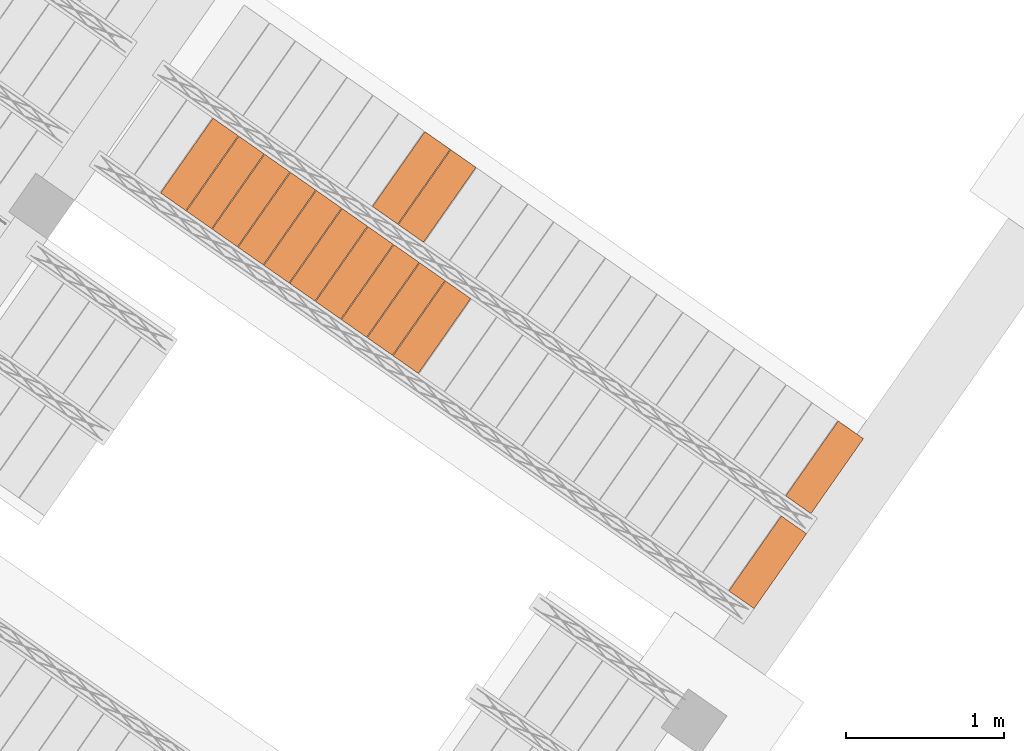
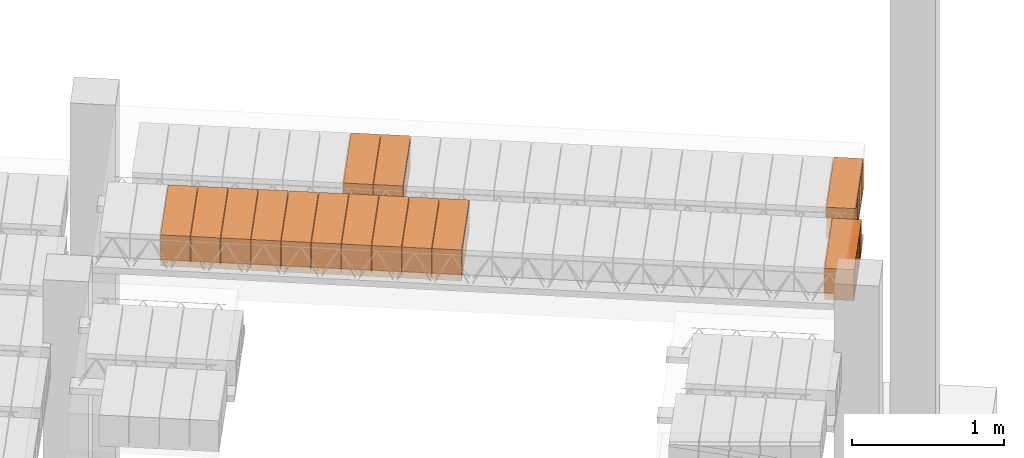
# One storey, part 77 of 80: 14 proxies.
"""IFC2X3 building model written with IfcOpenShell, lengths in metres."""

from ifc_helpers import new_model, entity, si_unit, converted_unit, derived_unit, direction, frame, origin, place, context, subcontext, project, spatial, polyline, outline, extrude, type_object, element, save


model = new_model("IFC2X3")

# Units and contexts
model_context = context("Model", 3, precision=1e-05, world=origin(), true_north=direction((6.123031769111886e-17, 1.0)))
body_context = subcontext(model_context, "Body", "Model", "MODEL_VIEW")
ifc_project = project(units=[si_unit("LENGTHUNIT", "METRE"), si_unit("AREAUNIT", "SQUARE_METRE"), si_unit("VOLUMEUNIT", "CUBIC_METRE"), converted_unit("PLANEANGLEUNIT", "DEGREE", entity("IfcPlaneAngleMeasure", 0.017453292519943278), si_unit("PLANEANGLEUNIT", "RADIAN"), dimensions=[0, 0, 0, 0, 0, 0, 0]), si_unit("MASSUNIT", "GRAM", prefix="KILO"), derived_unit("MASSDENSITYUNIT", [(si_unit("MASSUNIT", "GRAM", prefix="KILO"), 1), (si_unit("LENGTHUNIT", "METRE"), -3)]), derived_unit("IONCONCENTRATIONUNIT", [(si_unit("MASSUNIT", "GRAM", prefix="KILO"), 1), (si_unit("LENGTHUNIT", "METRE"), -3)]), derived_unit("MOMENTOFINERTIAUNIT", [(si_unit("LENGTHUNIT", "METRE"), 4)]), si_unit("TIMEUNIT", "SECOND"), si_unit("FREQUENCYUNIT", "HERTZ"), si_unit("THERMODYNAMICTEMPERATUREUNIT", "DEGREE_CELSIUS"), derived_unit("THERMALTRANSMITTANCEUNIT", [(si_unit("MASSUNIT", "GRAM", prefix="KILO"), 1), (si_unit("THERMODYNAMICTEMPERATUREUNIT", "KELVIN"), -1), (si_unit("TIMEUNIT", "SECOND"), -3)]), derived_unit("THERMALCONDUCTANCEUNIT", [(si_unit("MASSUNIT", "GRAM", prefix="KILO"), 1), (si_unit("THERMODYNAMICTEMPERATUREUNIT", "KELVIN"), -1), (si_unit("TIMEUNIT", "SECOND"), -3), (si_unit("LENGTHUNIT", "METRE"), 1)]), derived_unit("VOLUMETRICFLOWRATEUNIT", [(si_unit("LENGTHUNIT", "METRE", prefix="DECI"), 3), (si_unit("TIMEUNIT", "SECOND"), -1)]), derived_unit("MASSFLOWRATEUNIT", [(si_unit("MASSUNIT", "GRAM", prefix="KILO"), 1), (si_unit("TIMEUNIT", "SECOND"), -1)]), derived_unit("ROTATIONALFREQUENCYUNIT", [(si_unit("TIMEUNIT", "SECOND"), -1)]), si_unit("ELECTRICCURRENTUNIT", "AMPERE"), si_unit("ELECTRICVOLTAGEUNIT", "VOLT"), si_unit("POWERUNIT", "WATT"), si_unit("FORCEUNIT", "NEWTON", prefix="KILO"), si_unit("ILLUMINANCEUNIT", "LUX"), si_unit("LUMINOUSFLUXUNIT", "LUMEN"), si_unit("LUMINOUSINTENSITYUNIT", "CANDELA"), si_unit("ENERGYUNIT", "JOULE"), derived_unit("USERDEFINED", [(si_unit("MASSUNIT", "GRAM", prefix="KILO"), -1), (si_unit("LENGTHUNIT", "METRE"), -2), (si_unit("TIMEUNIT", "SECOND"), 3), (si_unit("LUMINOUSFLUXUNIT", "LUMEN"), 1)]), derived_unit("USERDEFINED", [(si_unit("MASSUNIT", "GRAM", prefix="KILO"), 1), (si_unit("TIMEUNIT", "SECOND"), -3), (si_unit("LENGTHUNIT", "METRE"), 3), (si_unit("ELECTRICCURRENTUNIT", "AMPERE"), -2)]), derived_unit("SOUNDPOWERUNIT", [(si_unit("MASSUNIT", "GRAM", prefix="KILO"), 1), (si_unit("TIMEUNIT", "SECOND"), -3), (si_unit("LENGTHUNIT", "METRE"), 2)]), derived_unit("SOUNDPRESSUREUNIT", [(si_unit("MASSUNIT", "GRAM", prefix="KILO"), 1), (si_unit("LENGTHUNIT", "METRE"), -1), (si_unit("TIMEUNIT", "SECOND"), -2)]), derived_unit("LINEARVELOCITYUNIT", [(si_unit("LENGTHUNIT", "METRE"), 1), (si_unit("TIMEUNIT", "SECOND"), -1)]), si_unit("PRESSUREUNIT", "PASCAL"), derived_unit("USERDEFINED", [(si_unit("MASSUNIT", "GRAM", prefix="KILO"), 1), (si_unit("LENGTHUNIT", "METRE"), -2), (si_unit("TIMEUNIT", "SECOND"), -2)]), derived_unit("LINEARFORCEUNIT", [(si_unit("MASSUNIT", "GRAM", prefix="KILO"), 1), (si_unit("TIMEUNIT", "SECOND"), -2)]), derived_unit("PLANARFORCEUNIT", [(si_unit("MASSUNIT", "GRAM", prefix="KILO"), 1), (si_unit("LENGTHUNIT", "METRE"), -1), (si_unit("TIMEUNIT", "SECOND"), -2)]), derived_unit("SPECIFICHEATCAPACITYUNIT", [(si_unit("THERMODYNAMICTEMPERATUREUNIT", "KELVIN"), -1), (si_unit("LENGTHUNIT", "METRE"), 2), (si_unit("TIMEUNIT", "SECOND"), -2)]), derived_unit("HEATFLUXDENSITYUNIT", [(si_unit("MASSUNIT", "GRAM", prefix="KILO"), 1), (si_unit("TIMEUNIT", "SECOND"), -3)]), derived_unit("HEATINGVALUEUNIT", [(si_unit("LENGTHUNIT", "METRE"), 2), (si_unit("TIMEUNIT", "SECOND"), -2)]), derived_unit("VAPORPERMEABILITYUNIT", [(si_unit("LENGTHUNIT", "METRE"), -1), (si_unit("TIMEUNIT", "SECOND"), 1)]), derived_unit("DYNAMICVISCOSITYUNIT", [(si_unit("MASSUNIT", "GRAM", prefix="KILO"), 1), (si_unit("TIMEUNIT", "SECOND"), -1), (si_unit("LENGTHUNIT", "METRE"), -1)]), derived_unit("THERMALEXPANSIONCOEFFICIENTUNIT", [(si_unit("THERMODYNAMICTEMPERATUREUNIT", "KELVIN"), -1)]), derived_unit("MODULUSOFELASTICITYUNIT", [(si_unit("MASSUNIT", "GRAM", prefix="KILO"), 1), (si_unit("LENGTHUNIT", "METRE"), -1), (si_unit("TIMEUNIT", "SECOND"), -2)]), derived_unit("ISOTHERMALMOISTURECAPACITYUNIT", [(si_unit("MASSUNIT", "GRAM", prefix="KILO"), -1), (si_unit("LENGTHUNIT", "METRE"), 3)]), derived_unit("MOISTUREDIFFUSIVITYUNIT", [(si_unit("TIMEUNIT", "SECOND"), -1), (si_unit("LENGTHUNIT", "METRE"), 2)]), derived_unit("MASSPERLENGTHUNIT", [(si_unit("MASSUNIT", "GRAM", prefix="KILO"), 1), (si_unit("LENGTHUNIT", "METRE"), -1)]), derived_unit("THERMALRESISTANCEUNIT", [(si_unit("MASSUNIT", "GRAM", prefix="KILO"), -1), (si_unit("TIMEUNIT", "SECOND"), 3), (si_unit("THERMODYNAMICTEMPERATUREUNIT", "KELVIN"), 1)]), derived_unit("ACCELERATIONUNIT", [(si_unit("LENGTHUNIT", "METRE"), 1), (si_unit("TIMEUNIT", "SECOND"), -2)]), derived_unit("ANGULARVELOCITYUNIT", [(si_unit("TIMEUNIT", "SECOND"), -1), (si_unit("PLANEANGLEUNIT", "RADIAN"), 1)]), derived_unit("LINEARSTIFFNESSUNIT", [(si_unit("MASSUNIT", "GRAM", prefix="KILO"), 1), (si_unit("TIMEUNIT", "SECOND"), -2)]), derived_unit("WARPINGCONSTANTUNIT", [(si_unit("LENGTHUNIT", "METRE"), 6)]), derived_unit("LINEARMOMENTUNIT", [(si_unit("MASSUNIT", "GRAM", prefix="KILO"), 1), (si_unit("LENGTHUNIT", "METRE"), 1), (si_unit("TIMEUNIT", "SECOND"), -2)]), derived_unit("TORQUEUNIT", [(si_unit("MASSUNIT", "GRAM", prefix="KILO"), 1), (si_unit("LENGTHUNIT", "METRE"), 2), (si_unit("TIMEUNIT", "SECOND"), -2)])], contexts=[model_context])

# Site, building, storey
site_placement = place(None, origin())
site = spatial("IfcSite", under=ifc_project, at=site_placement, Name="Default", CompositionType="ELEMENT")
building_placement = place(site_placement, origin())
building = spatial("IfcBuilding", under=site, at=building_placement, CompositionType="ELEMENT")
storey_placement = place(building_placement, frame((0.0, 0.0, 95.94)))
storey = spatial("IfcBuildingStorey", under=building, at=storey_placement, Name="PB", CompositionType="ELEMENT", Elevation=95.94)

# Proxies
building_element_proxy_type_1 = type_object("IfcBuildingElementProxyType", Name="Bovedilla 1-1 (Paño 15)", PredefinedType="USERDEFINED")
proxy_1_placement = place(storey_placement, origin())
element("IfcBuildingElementProxy", 1, at=proxy_1_placement, inside=storey, type_object=building_element_proxy_type_1, Name="Bovedilla 1-1 (Paño 15)", ObjectType="FORM", context=body_context, shape_type="SweptSolid", body=[
    extrude(outline(polyline([(-0.28999999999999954, -0.12500000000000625), (0.28999999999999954, -0.12500000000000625), (0.28999999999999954, 0.12500000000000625), (-0.28999999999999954, 0.12500000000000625), (-0.28999999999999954, -0.12500000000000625)]), holes=[polyline([(0.26999999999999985, -0.10499999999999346), (0.15500000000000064, -0.10499999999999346), (0.15500000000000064, 0.10499999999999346), (0.26999999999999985, 0.10499999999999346), (0.26999999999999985, 0.042499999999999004), (0.26999999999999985, -0.10499999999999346)]), polyline([(0.009999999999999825, -0.10499999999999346), (0.009999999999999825, 0.10499999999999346), (0.13499999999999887, 0.10499999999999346), (0.13499999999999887, -0.10499999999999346), (0.009999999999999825, -0.10499999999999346)]), polyline([(-0.13499999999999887, 0.10499999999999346), (-0.009999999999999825, 0.10499999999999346), (-0.009999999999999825, -0.10499999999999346), (-0.13499999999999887, -0.10499999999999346), (-0.13499999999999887, 0.10499999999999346)]), polyline([(-0.26999999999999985, -0.10499999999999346), (-0.26999999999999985, 0.042499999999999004), (-0.26999999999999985, 0.10499999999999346), (-0.15500000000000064, 0.10499999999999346), (-0.15500000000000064, -0.10499999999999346), (-0.26999999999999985, -0.10499999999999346)])]), frame((10.355158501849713, 5.323562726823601, 3.4050000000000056), z_axis=(0.8191520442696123, -0.5735764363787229, 0.0), x_axis=(-0.5735764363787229, -0.8191520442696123, 0.0)), (0.0, 0.0, 1.0), 0.19499999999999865),
])
building_element_proxy_type_2 = type_object("IfcBuildingElementProxyType", Name="Bovedilla 1-14 (Paño 15)", PredefinedType="USERDEFINED")
proxy_2_placement = place(storey_placement, origin())
element("IfcBuildingElementProxy", 2, at=proxy_2_placement, inside=storey, type_object=building_element_proxy_type_2, Name="Bovedilla 1-14 (Paño 15)", ObjectType="FORM", context=body_context, shape_type="SweptSolid", body=[
    extrude(outline(polyline([(-0.28999999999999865, -0.12500000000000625), (0.2900000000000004, -0.12500000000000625), (0.2900000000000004, 0.12500000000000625), (-0.28999999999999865, 0.12500000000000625), (-0.28999999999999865, -0.12500000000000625)]), holes=[polyline([(0.2700000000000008, -0.10499999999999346), (0.15500000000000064, -0.10499999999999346), (0.15500000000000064, 0.10499999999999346), (0.2700000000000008, 0.10499999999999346), (0.2700000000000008, 0.042499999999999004), (0.2700000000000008, -0.10499999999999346)]), polyline([(0.010000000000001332, -0.10499999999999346), (0.010000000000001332, 0.10499999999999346), (0.1350000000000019, 0.10499999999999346), (0.1350000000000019, -0.10499999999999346), (0.010000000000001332, -0.10499999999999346)]), polyline([(-0.1349999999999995, 0.10499999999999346), (-0.009999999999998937, 0.10499999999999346), (-0.009999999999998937, -0.10499999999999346), (-0.1349999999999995, -0.10499999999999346), (-0.1349999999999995, 0.10499999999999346)]), polyline([(-0.26999999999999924, -0.10499999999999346), (-0.26999999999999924, 0.042499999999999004), (-0.26999999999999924, 0.10499999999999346), (-0.15499999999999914, 0.10499999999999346), (-0.15499999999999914, -0.10499999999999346), (-0.26999999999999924, -0.10499999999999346)])]), frame((8.22536318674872, 6.81486146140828, 3.4050000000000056), z_axis=(0.8191520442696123, -0.5735764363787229, 0.0), x_axis=(-0.5735764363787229, -0.8191520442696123, 0.0)), (0.0, 0.0, 1.0), 0.19499999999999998),
])
building_element_proxy_type_3 = type_object("IfcBuildingElementProxyType", Name="Bovedilla 1-15 (Paño 15)", PredefinedType="USERDEFINED")
proxy_3_placement = place(storey_placement, origin())
element("IfcBuildingElementProxy", 3, at=proxy_3_placement, inside=storey, type_object=building_element_proxy_type_3, Name="Bovedilla 1-15 (Paño 15)", ObjectType="FORM", context=body_context, shape_type="SweptSolid", body=[
    extrude(outline(polyline([(-0.28999999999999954, -0.12500000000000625), (0.28999999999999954, -0.12500000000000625), (0.28999999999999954, 0.12500000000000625), (-0.28999999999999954, 0.12500000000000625), (-0.28999999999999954, -0.12500000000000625)]), holes=[polyline([(0.26999999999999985, -0.10499999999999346), (0.15500000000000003, -0.10499999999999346), (0.15500000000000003, 0.10499999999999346), (0.26999999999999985, 0.10499999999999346), (0.26999999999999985, 0.042499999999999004), (0.26999999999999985, -0.10499999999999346)]), polyline([(0.009999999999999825, -0.10499999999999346), (0.009999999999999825, 0.10499999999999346), (0.1350000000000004, 0.10499999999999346), (0.1350000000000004, -0.10499999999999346), (0.009999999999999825, -0.10499999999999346)]), polyline([(-0.1350000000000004, 0.10499999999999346), (-0.009999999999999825, 0.10499999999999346), (-0.009999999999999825, -0.10499999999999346), (-0.1350000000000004, -0.10499999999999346), (-0.1350000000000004, 0.10499999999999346)]), polyline([(-0.26999999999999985, -0.10499999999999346), (-0.26999999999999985, 0.042499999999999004), (-0.26999999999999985, 0.10499999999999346), (-0.15500000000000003, 0.10499999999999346), (-0.15500000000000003, -0.10499999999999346), (-0.26999999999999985, -0.10499999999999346)])]), frame((8.061532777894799, 6.929576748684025, 3.4050000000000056), z_axis=(0.8191520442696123, -0.5735764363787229, 0.0), x_axis=(-0.5735764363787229, -0.8191520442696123, 0.0)), (0.0, 0.0, 1.0), 0.19499999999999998),
])
building_element_proxy_type_4 = type_object("IfcBuildingElementProxyType", Name="Bovedilla 1-16 (Paño 15)", PredefinedType="USERDEFINED")
proxy_4_placement = place(storey_placement, origin())
element("IfcBuildingElementProxy", 4, at=proxy_4_placement, inside=storey, type_object=building_element_proxy_type_4, Name="Bovedilla 1-16 (Paño 15)", ObjectType="FORM", context=body_context, shape_type="SweptSolid", body=[
    extrude(outline(polyline([(-0.28999999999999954, -0.12500000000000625), (0.28999999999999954, -0.12500000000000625), (0.28999999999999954, 0.12500000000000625), (-0.28999999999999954, 0.12500000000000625), (-0.28999999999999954, -0.12500000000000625)]), holes=[polyline([(0.26999999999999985, -0.10499999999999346), (0.15500000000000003, -0.10499999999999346), (0.15500000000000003, 0.10499999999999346), (0.26999999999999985, 0.10499999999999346), (0.26999999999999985, 0.042499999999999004), (0.26999999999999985, -0.10499999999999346)]), polyline([(0.009999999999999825, -0.10499999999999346), (0.009999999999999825, 0.10499999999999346), (0.1350000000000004, 0.10499999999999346), (0.1350000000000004, -0.10499999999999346), (0.009999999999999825, -0.10499999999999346)]), polyline([(-0.1350000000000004, 0.10499999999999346), (-0.009999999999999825, 0.10499999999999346), (-0.009999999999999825, -0.10499999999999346), (-0.1350000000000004, -0.10499999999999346), (-0.1350000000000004, 0.10499999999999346)]), polyline([(-0.26999999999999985, -0.10499999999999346), (-0.26999999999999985, 0.042499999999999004), (-0.26999999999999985, 0.10499999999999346), (-0.15500000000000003, 0.10499999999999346), (-0.15500000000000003, -0.10499999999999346), (-0.26999999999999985, -0.10499999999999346)])]), frame((7.897702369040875, 7.044292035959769, 3.4050000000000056), z_axis=(0.8191520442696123, -0.5735764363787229, 0.0), x_axis=(-0.5735764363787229, -0.8191520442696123, 0.0)), (0.0, 0.0, 1.0), 0.19499999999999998),
])
building_element_proxy_type_5 = type_object("IfcBuildingElementProxyType", Name="Bovedilla 1-17 (Paño 15)", PredefinedType="USERDEFINED")
proxy_5_placement = place(storey_placement, origin())
element("IfcBuildingElementProxy", 5, at=proxy_5_placement, inside=storey, type_object=building_element_proxy_type_5, Name="Bovedilla 1-17 (Paño 15)", ObjectType="FORM", context=body_context, shape_type="SweptSolid", body=[
    extrude(outline(polyline([(-0.28999999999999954, -0.12500000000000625), (0.28999999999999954, -0.12500000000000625), (0.28999999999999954, 0.12500000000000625), (-0.28999999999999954, 0.12500000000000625), (-0.28999999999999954, -0.12500000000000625)]), holes=[polyline([(0.26999999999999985, -0.10499999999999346), (0.15500000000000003, -0.10499999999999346), (0.15500000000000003, 0.10499999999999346), (0.26999999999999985, 0.10499999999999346), (0.26999999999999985, 0.042499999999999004), (0.26999999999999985, -0.10499999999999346)]), polyline([(0.009999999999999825, -0.10499999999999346), (0.009999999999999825, 0.10499999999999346), (0.1350000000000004, 0.10499999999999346), (0.1350000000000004, -0.10499999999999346), (0.009999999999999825, -0.10499999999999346)]), polyline([(-0.1350000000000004, 0.10499999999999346), (-0.009999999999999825, 0.10499999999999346), (-0.009999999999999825, -0.10499999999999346), (-0.1350000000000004, -0.10499999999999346), (-0.1350000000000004, 0.10499999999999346)]), polyline([(-0.26999999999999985, -0.10499999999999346), (-0.26999999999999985, 0.042499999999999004), (-0.26999999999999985, 0.10499999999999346), (-0.15500000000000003, 0.10499999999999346), (-0.15500000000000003, -0.10499999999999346), (-0.26999999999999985, -0.10499999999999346)])]), frame((7.733871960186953, 7.159007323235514, 3.4050000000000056), z_axis=(0.8191520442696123, -0.5735764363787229, 0.0), x_axis=(-0.5735764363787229, -0.8191520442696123, 0.0)), (0.0, 0.0, 1.0), 0.19499999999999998),
])
building_element_proxy_type_6 = type_object("IfcBuildingElementProxyType", Name="Bovedilla 1-18 (Paño 15)", PredefinedType="USERDEFINED")
proxy_6_placement = place(storey_placement, origin())
element("IfcBuildingElementProxy", 6, at=proxy_6_placement, inside=storey, type_object=building_element_proxy_type_6, Name="Bovedilla 1-18 (Paño 15)", ObjectType="FORM", context=body_context, shape_type="SweptSolid", body=[
    extrude(outline(polyline([(-0.28999999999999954, -0.12500000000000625), (0.28999999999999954, -0.12500000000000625), (0.28999999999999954, 0.12500000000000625), (-0.28999999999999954, 0.12500000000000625), (-0.28999999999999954, -0.12500000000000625)]), holes=[polyline([(0.26999999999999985, -0.10499999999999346), (0.15500000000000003, -0.10499999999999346), (0.15500000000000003, 0.10499999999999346), (0.26999999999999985, 0.10499999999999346), (0.26999999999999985, 0.042499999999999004), (0.26999999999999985, -0.10499999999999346)]), polyline([(0.009999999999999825, -0.10499999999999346), (0.009999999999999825, 0.10499999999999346), (0.1350000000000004, 0.10499999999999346), (0.1350000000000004, -0.10499999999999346), (0.009999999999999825, -0.10499999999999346)]), polyline([(-0.1350000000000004, 0.10499999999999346), (-0.009999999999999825, 0.10499999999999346), (-0.009999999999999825, -0.10499999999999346), (-0.1350000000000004, -0.10499999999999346), (-0.1350000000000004, 0.10499999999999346)]), polyline([(-0.26999999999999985, -0.10499999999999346), (-0.26999999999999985, 0.042499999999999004), (-0.26999999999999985, 0.10499999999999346), (-0.15500000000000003, 0.10499999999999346), (-0.15500000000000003, -0.10499999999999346), (-0.26999999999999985, -0.10499999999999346)])]), frame((7.5700415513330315, 7.273722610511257, 3.4050000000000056), z_axis=(0.8191520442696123, -0.5735764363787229, 0.0), x_axis=(-0.5735764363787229, -0.8191520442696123, 0.0)), (0.0, 0.0, 1.0), 0.19499999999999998),
])
building_element_proxy_type_7 = type_object("IfcBuildingElementProxyType", Name="Bovedilla 1-19 (Paño 15)", PredefinedType="USERDEFINED")
proxy_7_placement = place(storey_placement, origin())
element("IfcBuildingElementProxy", 7, at=proxy_7_placement, inside=storey, type_object=building_element_proxy_type_7, Name="Bovedilla 1-19 (Paño 15)", ObjectType="FORM", context=body_context, shape_type="SweptSolid", body=[
    extrude(outline(polyline([(-0.28999999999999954, -0.12500000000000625), (0.28999999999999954, -0.12500000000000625), (0.28999999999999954, 0.12500000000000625), (-0.28999999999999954, 0.12500000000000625), (-0.28999999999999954, -0.12500000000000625)]), holes=[polyline([(0.26999999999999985, -0.10499999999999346), (0.15500000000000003, -0.10499999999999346), (0.15500000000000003, 0.10499999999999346), (0.26999999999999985, 0.10499999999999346), (0.26999999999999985, 0.042499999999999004), (0.26999999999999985, -0.10499999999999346)]), polyline([(0.009999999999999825, -0.10499999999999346), (0.009999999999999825, 0.10499999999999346), (0.1350000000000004, 0.10499999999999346), (0.1350000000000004, -0.10499999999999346), (0.009999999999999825, -0.10499999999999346)]), polyline([(-0.1350000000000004, 0.10499999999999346), (-0.009999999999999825, 0.10499999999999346), (-0.009999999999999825, -0.10499999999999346), (-0.1350000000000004, -0.10499999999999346), (-0.1350000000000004, 0.10499999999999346)]), polyline([(-0.26999999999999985, -0.10499999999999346), (-0.26999999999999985, 0.042499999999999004), (-0.26999999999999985, 0.10499999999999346), (-0.15500000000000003, 0.10499999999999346), (-0.15500000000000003, -0.10499999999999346), (-0.26999999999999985, -0.10499999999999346)])]), frame((7.406211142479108, 7.388437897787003, 3.4050000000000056), z_axis=(0.8191520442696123, -0.5735764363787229, 0.0), x_axis=(-0.5735764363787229, -0.8191520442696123, 0.0)), (0.0, 0.0, 1.0), 0.19499999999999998),
])
building_element_proxy_type_8 = type_object("IfcBuildingElementProxyType", Name="Bovedilla 1-20 (Paño 15)", PredefinedType="USERDEFINED")
proxy_8_placement = place(storey_placement, origin())
element("IfcBuildingElementProxy", 8, at=proxy_8_placement, inside=storey, type_object=building_element_proxy_type_8, Name="Bovedilla 1-20 (Paño 15)", ObjectType="FORM", context=body_context, shape_type="SweptSolid", body=[
    extrude(outline(polyline([(-0.28999999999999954, -0.12500000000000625), (0.28999999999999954, -0.12500000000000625), (0.28999999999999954, 0.12500000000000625), (-0.28999999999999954, 0.12500000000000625), (-0.28999999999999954, -0.12500000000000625)]), holes=[polyline([(0.26999999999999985, -0.10499999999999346), (0.15500000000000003, -0.10499999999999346), (0.15500000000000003, 0.10499999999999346), (0.26999999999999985, 0.10499999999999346), (0.26999999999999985, 0.042499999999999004), (0.26999999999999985, -0.10499999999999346)]), polyline([(0.009999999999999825, -0.10499999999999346), (0.009999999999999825, 0.10499999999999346), (0.1350000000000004, 0.10499999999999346), (0.1350000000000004, -0.10499999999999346), (0.009999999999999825, -0.10499999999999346)]), polyline([(-0.1350000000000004, 0.10499999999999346), (-0.009999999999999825, 0.10499999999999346), (-0.009999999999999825, -0.10499999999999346), (-0.1350000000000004, -0.10499999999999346), (-0.1350000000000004, 0.10499999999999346)]), polyline([(-0.26999999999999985, -0.10499999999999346), (-0.26999999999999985, 0.042499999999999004), (-0.26999999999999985, 0.10499999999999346), (-0.15500000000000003, 0.10499999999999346), (-0.15500000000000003, -0.10499999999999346), (-0.26999999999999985, -0.10499999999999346)])]), frame((7.242380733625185, 7.503153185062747, 3.4050000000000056), z_axis=(0.8191520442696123, -0.5735764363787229, 0.0), x_axis=(-0.5735764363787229, -0.8191520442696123, 0.0)), (0.0, 0.0, 1.0), 0.19499999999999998),
])
building_element_proxy_type_9 = type_object("IfcBuildingElementProxyType", Name="Bovedilla 1-21 (Paño 15)", PredefinedType="USERDEFINED")
proxy_9_placement = place(storey_placement, origin())
element("IfcBuildingElementProxy", 9, at=proxy_9_placement, inside=storey, type_object=building_element_proxy_type_9, Name="Bovedilla 1-21 (Paño 15)", ObjectType="FORM", context=body_context, shape_type="SweptSolid", body=[
    extrude(outline(polyline([(-0.28999999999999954, -0.12500000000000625), (0.28999999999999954, -0.12500000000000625), (0.28999999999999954, 0.12500000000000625), (-0.28999999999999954, 0.12500000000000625), (-0.28999999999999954, -0.12500000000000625)]), holes=[polyline([(0.26999999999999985, -0.10499999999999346), (0.15500000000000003, -0.10499999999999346), (0.15500000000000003, 0.10499999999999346), (0.26999999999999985, 0.10499999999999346), (0.26999999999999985, 0.042499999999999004), (0.26999999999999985, -0.10499999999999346)]), polyline([(0.009999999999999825, -0.10499999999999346), (0.009999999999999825, 0.10499999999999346), (0.1350000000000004, 0.10499999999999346), (0.1350000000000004, -0.10499999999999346), (0.009999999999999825, -0.10499999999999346)]), polyline([(-0.1350000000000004, 0.10499999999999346), (-0.009999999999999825, 0.10499999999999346), (-0.009999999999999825, -0.10499999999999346), (-0.1350000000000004, -0.10499999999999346), (-0.1350000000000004, 0.10499999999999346)]), polyline([(-0.26999999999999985, -0.10499999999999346), (-0.26999999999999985, 0.042499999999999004), (-0.26999999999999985, 0.10499999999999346), (-0.15500000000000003, 0.10499999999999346), (-0.15500000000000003, -0.10499999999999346), (-0.26999999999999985, -0.10499999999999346)])]), frame((7.078550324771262, 7.6178684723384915, 3.4050000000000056), z_axis=(0.8191520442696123, -0.5735764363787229, 0.0), x_axis=(-0.5735764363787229, -0.8191520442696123, 0.0)), (0.0, 0.0, 1.0), 0.19499999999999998),
])
building_element_proxy_type_10 = type_object("IfcBuildingElementProxyType", Name="Bovedilla 1-22 (Paño 15)", PredefinedType="USERDEFINED")
proxy_10_placement = place(storey_placement, origin())
element("IfcBuildingElementProxy", 10, at=proxy_10_placement, inside=storey, type_object=building_element_proxy_type_10, Name="Bovedilla 1-22 (Paño 15)", ObjectType="FORM", context=body_context, shape_type="SweptSolid", body=[
    extrude(outline(polyline([(-0.28999999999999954, -0.12500000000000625), (0.28999999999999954, -0.12500000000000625), (0.28999999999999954, 0.12500000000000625), (-0.28999999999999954, 0.12500000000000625), (-0.28999999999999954, -0.12500000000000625)]), holes=[polyline([(0.26999999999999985, -0.10499999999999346), (0.15500000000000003, -0.10499999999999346), (0.15500000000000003, 0.10499999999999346), (0.26999999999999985, 0.10499999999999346), (0.26999999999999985, 0.042499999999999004), (0.26999999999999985, -0.10499999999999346)]), polyline([(0.009999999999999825, -0.10499999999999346), (0.009999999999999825, 0.10499999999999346), (0.1350000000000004, 0.10499999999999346), (0.1350000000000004, -0.10499999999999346), (0.009999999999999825, -0.10499999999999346)]), polyline([(-0.1350000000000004, 0.10499999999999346), (-0.009999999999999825, 0.10499999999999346), (-0.009999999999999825, -0.10499999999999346), (-0.1350000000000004, -0.10499999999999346), (-0.1350000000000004, 0.10499999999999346)]), polyline([(-0.26999999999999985, -0.10499999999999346), (-0.26999999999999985, 0.042499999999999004), (-0.26999999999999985, 0.10499999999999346), (-0.15500000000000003, 0.10499999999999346), (-0.15500000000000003, -0.10499999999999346), (-0.26999999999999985, -0.10499999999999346)])]), frame((6.91471991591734, 7.7325837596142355, 3.4050000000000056), z_axis=(0.8191520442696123, -0.5735764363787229, 0.0), x_axis=(-0.5735764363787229, -0.8191520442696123, 0.0)), (0.0, 0.0, 1.0), 0.19499999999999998),
])
building_element_proxy_type_11 = type_object("IfcBuildingElementProxyType", Name="Bovedilla 1-23 (Paño 15)", PredefinedType="USERDEFINED")
proxy_11_placement = place(storey_placement, origin())
element("IfcBuildingElementProxy", 11, at=proxy_11_placement, inside=storey, type_object=building_element_proxy_type_11, Name="Bovedilla 1-23 (Paño 15)", ObjectType="FORM", context=body_context, shape_type="SweptSolid", body=[
    extrude(outline(polyline([(-0.28999999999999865, -0.12500000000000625), (0.2900000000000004, -0.12500000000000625), (0.2900000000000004, 0.12500000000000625), (-0.28999999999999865, 0.12500000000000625), (-0.28999999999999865, -0.12500000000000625)]), holes=[polyline([(0.2700000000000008, -0.10499999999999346), (0.15500000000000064, -0.10499999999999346), (0.15500000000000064, 0.10499999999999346), (0.2700000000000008, 0.10499999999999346), (0.2700000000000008, 0.042499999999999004), (0.2700000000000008, -0.10499999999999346)]), polyline([(0.010000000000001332, -0.10499999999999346), (0.010000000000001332, 0.10499999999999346), (0.1350000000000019, 0.10499999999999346), (0.1350000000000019, -0.10499999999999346), (0.010000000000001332, -0.10499999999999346)]), polyline([(-0.1349999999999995, 0.10499999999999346), (-0.009999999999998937, 0.10499999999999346), (-0.009999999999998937, -0.10499999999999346), (-0.1349999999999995, -0.10499999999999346), (-0.1349999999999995, 0.10499999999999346)]), polyline([(-0.26999999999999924, -0.10499999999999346), (-0.26999999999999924, 0.042499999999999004), (-0.26999999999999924, 0.10499999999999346), (-0.15499999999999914, 0.10499999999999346), (-0.15499999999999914, -0.10499999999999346), (-0.26999999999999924, -0.10499999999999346)])]), frame((6.750889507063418, 7.847299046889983, 3.4050000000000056), z_axis=(0.8191520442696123, -0.5735764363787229, 0.0), x_axis=(-0.5735764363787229, -0.8191520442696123, 0.0)), (0.0, 0.0, 1.0), 0.19499999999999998),
])
building_element_proxy_type_12 = type_object("IfcBuildingElementProxyType", Name="Bovedilla 2-1 (Paño 15)", PredefinedType="USERDEFINED")
proxy_12_placement = place(storey_placement, origin())
element("IfcBuildingElementProxy", 12, at=proxy_12_placement, inside=storey, type_object=building_element_proxy_type_12, Name="Bovedilla 2-1 (Paño 15)", ObjectType="FORM", context=body_context, shape_type="SweptSolid", body=[
    extrude(outline(polyline([(-0.28999999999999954, -0.12500000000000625), (0.28999999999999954, -0.12500000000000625), (0.28999999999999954, 0.12500000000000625), (-0.28999999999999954, 0.12500000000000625), (-0.28999999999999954, -0.12500000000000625)]), holes=[polyline([(0.26999999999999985, -0.10499999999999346), (0.15500000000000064, -0.10499999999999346), (0.15500000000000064, 0.10499999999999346), (0.26999999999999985, 0.10499999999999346), (0.26999999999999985, 0.042499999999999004), (0.26999999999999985, -0.10499999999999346)]), polyline([(0.009999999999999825, -0.10499999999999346), (0.009999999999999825, 0.10499999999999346), (0.13499999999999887, 0.10499999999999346), (0.13499999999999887, -0.10499999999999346), (0.009999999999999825, -0.10499999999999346)]), polyline([(-0.13499999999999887, 0.10499999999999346), (-0.009999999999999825, 0.10499999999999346), (-0.009999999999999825, -0.10499999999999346), (-0.13499999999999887, -0.10499999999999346), (-0.13499999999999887, 0.10499999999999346)]), polyline([(-0.26999999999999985, -0.10499999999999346), (-0.26999999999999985, 0.042499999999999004), (-0.26999999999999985, 0.10499999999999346), (-0.15500000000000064, 0.10499999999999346), (-0.15500000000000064, -0.10499999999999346), (-0.26999999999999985, -0.10499999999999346)])]), frame((10.715991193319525, 5.9260575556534, 3.4050000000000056), z_axis=(0.8191520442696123, -0.5735764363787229, 0.0), x_axis=(-0.5735764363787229, -0.8191520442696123, 0.0)), (0.0, 0.0, 1.0), 0.1950000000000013),
])
building_element_proxy_type_13 = type_object("IfcBuildingElementProxyType", Name="Bovedilla 2-16 (Paño 15)", PredefinedType="USERDEFINED")
proxy_13_placement = place(storey_placement, origin())
element("IfcBuildingElementProxy", 13, at=proxy_13_placement, inside=storey, type_object=building_element_proxy_type_13, Name="Bovedilla 2-16 (Paño 15)", ObjectType="FORM", context=body_context, shape_type="SweptSolid", body=[
    extrude(outline(polyline([(-0.28999999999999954, -0.12500000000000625), (0.28999999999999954, -0.12500000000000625), (0.28999999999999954, 0.12500000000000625), (-0.28999999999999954, 0.12500000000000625), (-0.28999999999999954, -0.12500000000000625)]), holes=[polyline([(0.26999999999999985, -0.10499999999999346), (0.15500000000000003, -0.10499999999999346), (0.15500000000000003, 0.10499999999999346), (0.26999999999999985, 0.10499999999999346), (0.26999999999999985, 0.042499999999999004), (0.26999999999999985, -0.10499999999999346)]), polyline([(0.009999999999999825, -0.10499999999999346), (0.009999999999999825, 0.10499999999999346), (0.1350000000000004, 0.10499999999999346), (0.1350000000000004, -0.10499999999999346), (0.009999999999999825, -0.10499999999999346)]), polyline([(-0.1350000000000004, 0.10499999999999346), (-0.009999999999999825, 0.10499999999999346), (-0.009999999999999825, -0.10499999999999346), (-0.1350000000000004, -0.10499999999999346), (-0.1350000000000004, 0.10499999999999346)]), polyline([(-0.26999999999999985, -0.10499999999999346), (-0.26999999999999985, 0.042499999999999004), (-0.26999999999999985, 0.10499999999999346), (-0.15500000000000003, 0.10499999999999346), (-0.15500000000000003, -0.10499999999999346), (-0.26999999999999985, -0.10499999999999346)])]), frame((8.25853506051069, 7.646786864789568, 3.4050000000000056), z_axis=(0.8191520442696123, -0.5735764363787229, 0.0), x_axis=(-0.5735764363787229, -0.8191520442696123, 0.0)), (0.0, 0.0, 1.0), 0.19499999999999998),
])
building_element_proxy_type_14 = type_object("IfcBuildingElementProxyType", Name="Bovedilla 2-17 (Paño 15)", PredefinedType="USERDEFINED")
proxy_14_placement = place(storey_placement, origin())
element("IfcBuildingElementProxy", 14, at=proxy_14_placement, inside=storey, type_object=building_element_proxy_type_14, Name="Bovedilla 2-17 (Paño 15)", ObjectType="FORM", context=body_context, shape_type="SweptSolid", body=[
    extrude(outline(polyline([(-0.28999999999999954, -0.12500000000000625), (0.28999999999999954, -0.12500000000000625), (0.28999999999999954, 0.12500000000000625), (-0.28999999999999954, 0.12500000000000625), (-0.28999999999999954, -0.12500000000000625)]), holes=[polyline([(0.26999999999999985, -0.10499999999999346), (0.15500000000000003, -0.10499999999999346), (0.15500000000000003, 0.10499999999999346), (0.26999999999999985, 0.10499999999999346), (0.26999999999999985, 0.042499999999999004), (0.26999999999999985, -0.10499999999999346)]), polyline([(0.009999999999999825, -0.10499999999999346), (0.009999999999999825, 0.10499999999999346), (0.1350000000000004, 0.10499999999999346), (0.1350000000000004, -0.10499999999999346), (0.009999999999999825, -0.10499999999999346)]), polyline([(-0.1350000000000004, 0.10499999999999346), (-0.009999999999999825, 0.10499999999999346), (-0.009999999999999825, -0.10499999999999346), (-0.1350000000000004, -0.10499999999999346), (-0.1350000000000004, 0.10499999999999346)]), polyline([(-0.26999999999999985, -0.10499999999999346), (-0.26999999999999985, 0.042499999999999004), (-0.26999999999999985, 0.10499999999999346), (-0.15500000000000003, 0.10499999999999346), (-0.15500000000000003, -0.10499999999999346), (-0.26999999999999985, -0.10499999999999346)])]), frame((8.094704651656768, 7.761502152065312, 3.4050000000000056), z_axis=(0.8191520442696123, -0.5735764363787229, 0.0), x_axis=(-0.5735764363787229, -0.8191520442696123, 0.0)), (0.0, 0.0, 1.0), 0.19499999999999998),
])

save(model, "model.ifc")
